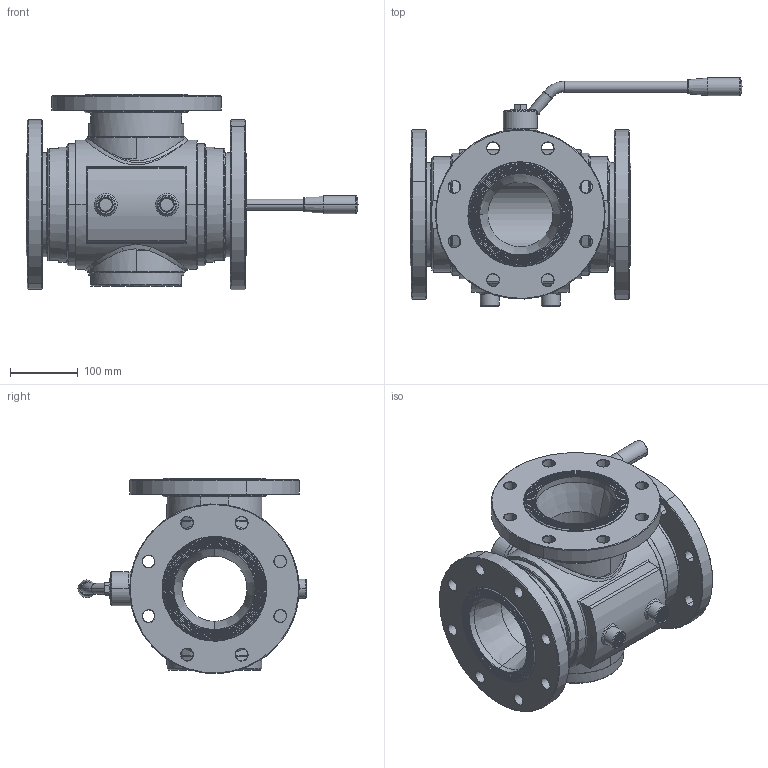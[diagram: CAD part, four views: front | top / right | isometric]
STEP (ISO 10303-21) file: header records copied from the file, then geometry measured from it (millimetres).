
FILE_DESCRIPTION((''),'2;1');
FILE_NAME('XXX_ASM','2026-06-25T07:53:48',('tecnico2'),('CDM Tecnoconsulting'),'CREO PARAMETRIC BY PTC INC, 2024063','CREO PARAMETRIC BY PTC INC, 2024063','');
FILE_SCHEMA(('CONFIG_CONTROL_DESIGN','SHAPE_APPEARANCE_LAYERS_GROUPS'));
Products named in the file (4): 300150C65510_SW0001; 92530076530; 93010006540; XXX_ASM
Assembly tree (3 placements, depth 2):
  XXX_ASM
    300150C65510_SW0001
    92530076530
    93010006540
Bounding box: 489 x 336 x 287.38 mm (x, y, z)
Volume: 7738800 mm3; surface area: 938510.9 mm2
Topology: 3 solids, 3 shells, 1664 faces, 4241 edges, 2703 vertices
Faces by surface type: plane 654, cylinder 335, cone 284, extrusion 205, torus 90, bspline 90, sphere 6
Entity records: 87632 total; most frequent: CARTESIAN_POINT 36437, ORIENTED_EDGE 8442, DIRECTION 7263, EDGE_CURVE 4221, PRESENTATION_STYLE_ASSIGNMENT 3921, STYLED_ITEM 3836, CURVE_STYLE 3835, VERTEX_POINT 2703
